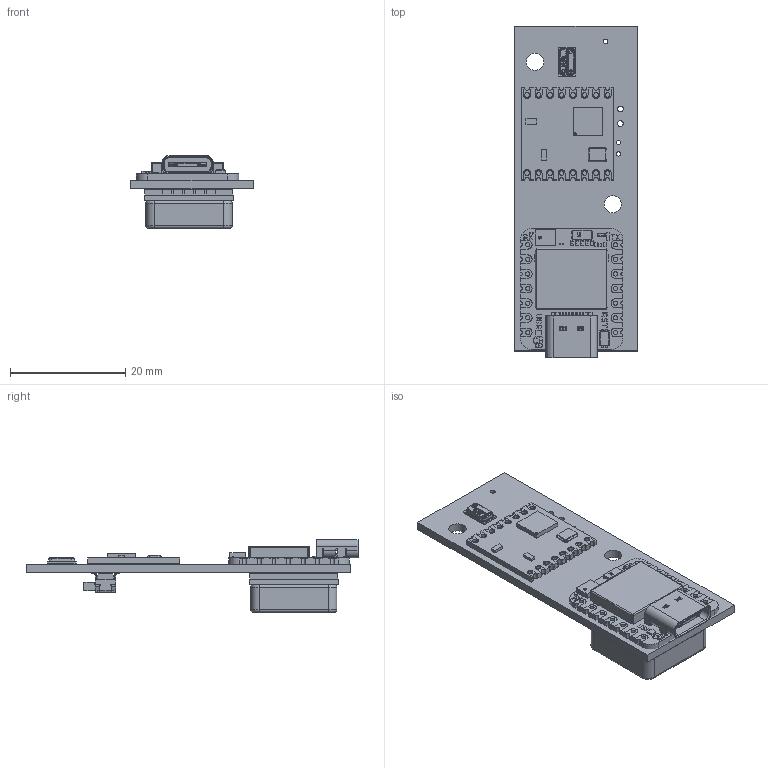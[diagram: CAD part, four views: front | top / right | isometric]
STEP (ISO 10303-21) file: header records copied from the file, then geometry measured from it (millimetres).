
FILE_DESCRIPTION(('KiCad electronic assembly'),'2;1');
FILE_NAME('BRB433L_TX_A3.step','2026-05-06T07:55:30',('Pcbnew'),('Kicad' ),'Open CASCADE STEP processor 7.9','KiCad to STEP converter', 'Unknown');
FILE_SCHEMA(('AUTOMOTIVE_DESIGN { 1 0 10303 214 1 1 1 1 }'));
Length unit declared in the file: millimetre
Products named in the file (52): BRB433L_TX_A3 1; XIAO-nRF52840 v15; USB TYPE C PORT; USB TYPE C PORT (1); BOSS-EXTRUDE14_8_; BOSS-EXTRUDE7_4_; BOSS-EXTRUDE7_3_; BOSS-EXTRUDE14_4_; BOSS-EXTRUDE14_2_; BOSS-EXTRUDE14_11_; BOSS-EXTRUDE7_7_; BOSS-EXTRUDE14_9_; BOSS-EXTRUDE14_3_; BOSS-EXTRUDE14_7_; MIRROR2; BOSS-EXTRUDE14_5_; BOSS-EXTRUDE14_12_; BOSS-EXTRUDE7_8_; BOSS-EXTRUDE7_1_; BOSS-EXTRUDE14_10_; BOSS-EXTRUDE7_9_; BOSS-EXTRUDE14_6_; CHAMFER9; BOSS-EXTRUDE14_1_; BOSS-EXTRUDE7_6_; BOSS-EXTRUDE7_2_; CUT-EXTRUDE5; BOSS-EXTRUDE7_5_; Shield; SKTAAAE010 v1; Body; Pins; PCB (1); CAP; ANT1; Silkscreen; CAP 3; LED; USR; COMPOUND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
Assembly tree (52 placements, depth 5):
  BRB433L_TX_A3 1
    XIAO-nRF52840 v15
      USB TYPE C PORT
        USB TYPE C PORT (1)
          BOSS-EXTRUDE14_8_
          BOSS-EXTRUDE7_4_
          BOSS-EXTRUDE7_3_
          BOSS-EXTRUDE14_4_
          BOSS-EXTRUDE14_2_
          BOSS-EXTRUDE14_11_
          BOSS-EXTRUDE7_7_
          BOSS-EXTRUDE14_9_
          BOSS-EXTRUDE14_3_
          BOSS-EXTRUDE14_7_
          MIRROR2
          BOSS-EXTRUDE14_5_
          BOSS-EXTRUDE14_12_
          BOSS-EXTRUDE7_8_
          BOSS-EXTRUDE7_1_
          BOSS-EXTRUDE14_10_
          BOSS-EXTRUDE7_9_
          BOSS-EXTRUDE14_6_
          CHAMFER9
          BOSS-EXTRUDE14_1_
          BOSS-EXTRUDE7_6_
          BOSS-EXTRUDE7_2_
          CUT-EXTRUDE5
          BOSS-EXTRUDE7_5_
      Shield
      SKTAAAE010 v1
        Body
        Pins
      PCB (1)
        CAP  x2
        ANT1
        Silkscreen
        CAP 3
        LED
        USR
        COMPOUND
      MSM261D3526H1CPM
        2 v1
        COMPOUND
    RFM98W-433S2
    MS5611-01BA03
      COMPOUND
      COMPOUND
    SAM-M8Q-0
    CL-SB-22B-11T
      22B-11_c
      2Side setting_s
    BR433L_TX_A3_PCB
Bounding box: 21.25 x 57.72 x 12.69 mm (x, y, z)
Volume: 4186.6 mm3; surface area: 7981.8 mm2
Topology: 143 solids, 173 shells, 2891 faces, 7415 edges, 4885 vertices
Faces by surface type: plane 2238, cylinder 441, bspline 170, torus 19, sphere 14, cone 6, revolution 3
Full cylindrical faces by diameter (mm): 0.3 x2, 0.5 x2, 0.525 x2, 0.6 x2, 0.75 x16, 0.8 x2, 1 x3, 1.524 x4, 3 x2
Entity records: 95585 total; most frequent: CARTESIAN_POINT 21729, ORIENTED_EDGE 14398, DIRECTION 12972, EDGE_CURVE 7310, LINE 5649, VECTOR 5649, VERTEX_POINT 4821, AXIS2_PLACEMENT_3D 3660
